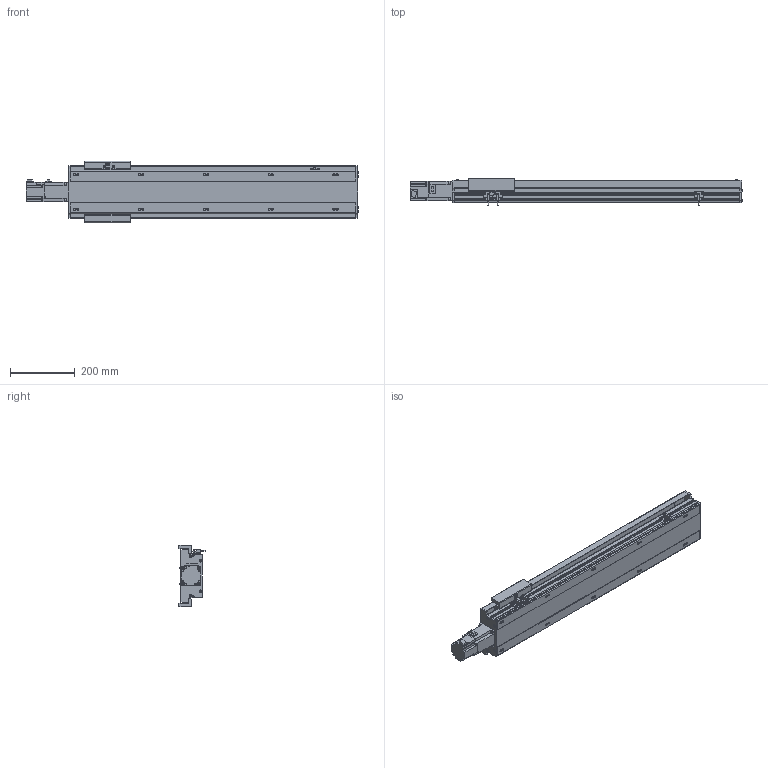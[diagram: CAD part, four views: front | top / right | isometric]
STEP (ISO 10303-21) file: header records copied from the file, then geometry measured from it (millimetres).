
FILE_DESCRIPTION(/* description */ ('STEP AP214'),/* implementation_level */ '2;1');
FILE_NAME(/* name */ 'PSM140-L10-S650-BC-T40-C1-N(0)',/* time_stamp */ '2022-06-13T03:19:29+02:00',/* author */ ('License CC BY-ND 4.0'),/* organization */ ('CADENAS'),/* preprocessor_version */ 'ST-DEVELOPER v18.102',/* originating_system */ 'PARTsolutions',/* authorisation */ ' ');
FILE_SCHEMA (('AUTOMOTIVE_DESIGN {1 0 10303 214 3 1 1}'));
Length unit declared in the file: millimetre
Products named in the file (7): PSM140-L10-S650-BC-T40-C1-N(0); PSM-Sensor; PSM140-S650-892.5; T40-p1; PSM140_body3; PSM140-S650_body1; PSM140-L10-S650-BC-T40-C1-N(0)_dummy
Assembly tree (10 placements, depth 2):
  PSM140-L10-S650-BC-T40-C1-N(0)
    PSM-Sensor  x3
    PSM140-S650-892.5  x3
    T40-p1
    PSM140_body3
    PSM140-S650_body1
    PSM140-L10-S650-BC-T40-C1-N(0)_dummy
Bounding box: 1023.7 x 81.3 x 190 mm (x, y, z)
Volume: 4406401.2 mm3; surface area: 936222.3 mm2
Topology: 9 solids, 9 shells, 944 faces, 2495 edges, 1622 vertices
Faces by surface type: plane 624, cylinder 250, cone 56, torus 14
Full cylindrical faces by diameter (mm): 2.8 x3, 4.5 x12, 4.6 x3, 4.917 x18, 5.5 x7, 5.7 x6, 6 x2, 7 x18, 8 x8, 8.5 x4, 10.5 x10, 14 x1, 50 x1
Entity records: 24050 total; most frequent: CARTESIAN_POINT 4295, DIRECTION 4063, ORIENTED_EDGE 3830, EDGE_CURVE 1915, LINE 1357, VECTOR 1357, AXIS2_PLACEMENT_3D 1353, VERTEX_POINT 1340
